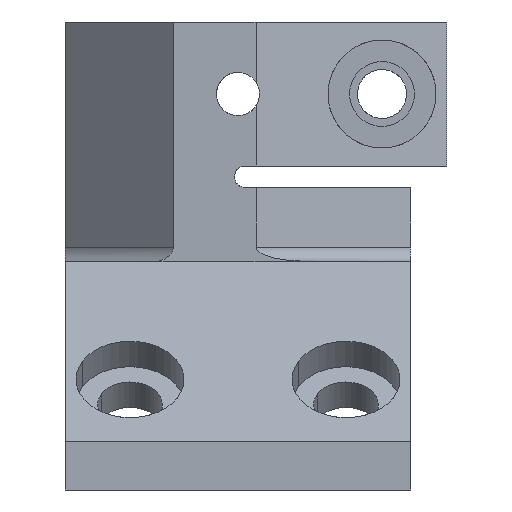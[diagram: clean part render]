
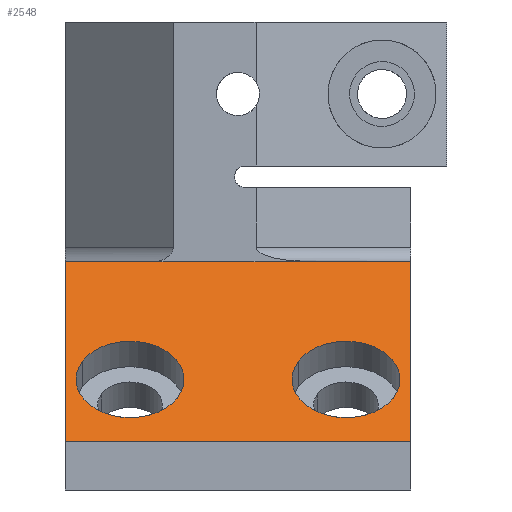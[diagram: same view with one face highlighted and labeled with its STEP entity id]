
A CAD part, front view. The second image highlights one B-rep face of the part: STEP entity #2548.
In plain terms, the highlighted planar face has unit normal (0, -0.707, 0.707).
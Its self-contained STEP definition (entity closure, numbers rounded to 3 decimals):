
#482=CARTESIAN_POINT('Vertex',(-9.,-44.,26.711)) ;
#485=CARTESIAN_POINT('Line Origine',(-9.,-31.5,39.211)) ;
#489=CARTESIAN_POINT('Vertex',(-9.,-19.,51.711)) ;
#830=CARTESIAN_POINT('Vertex',(3.172,-19.,51.711)) ;
#1004=CARTESIAN_POINT('Line Origine',(4.586,-19.,51.711)) ;
#1008=CARTESIAN_POINT('Vertex',(6.,-19.,51.711)) ;
#1011=CARTESIAN_POINT('Line Origine',(11.751,-19.,51.711)) ;
#1015=CARTESIAN_POINT('Vertex',(17.501,-19.,51.711)) ;
#1018=CARTESIAN_POINT('Line Origine',(21.365,-19.,51.711)) ;
#1022=CARTESIAN_POINT('Vertex',(25.229,-19.,51.711)) ;
#1808=CARTESIAN_POINT('Axis2P3D Location',(0.,-35.355,35.355)) ;
#1812=CARTESIAN_POINT('Vertex',(6.582,-37.898,32.813)) ;
#1814=CARTESIAN_POINT('Vertex',(-6.582,-32.813,37.898)) ;
#1834=CARTESIAN_POINT('Axis2P3D Location',(0.,-35.355,35.355)) ;
#1851=CARTESIAN_POINT('Axis2P3D Location',(30.,-35.355,35.355)) ;
#1855=CARTESIAN_POINT('Vertex',(23.418,-32.813,37.898)) ;
#1857=CARTESIAN_POINT('Vertex',(36.582,-37.898,32.813)) ;
#1877=CARTESIAN_POINT('Axis2P3D Location',(30.,-35.355,35.355)) ;
#2101=CARTESIAN_POINT('Line Origine',(32.114,-19.,51.711)) ;
#2105=CARTESIAN_POINT('Vertex',(39.,-19.,51.711)) ;
#2253=CARTESIAN_POINT('Line Origine',(39.,-31.5,39.211)) ;
#2257=CARTESIAN_POINT('Vertex',(39.,-44.,26.711)) ;
#2508=CARTESIAN_POINT('Line Origine',(15.,-44.,26.711)) ;
#2520=CARTESIAN_POINT('Axis2P3D Location',(0.,-19.,51.711)) ;
#2525=CARTESIAN_POINT('Line Origine',(-2.914,-19.,51.711)) ;
#486=DIRECTION('Vector Direction',(0.,-0.707,-0.707)) ;
#1005=DIRECTION('Vector Direction',(1.,0.,0.)) ;
#1012=DIRECTION('Vector Direction',(1.,0.,0.)) ;
#1019=DIRECTION('Vector Direction',(-1.,0.,0.)) ;
#1809=DIRECTION('Axis2P3D Direction',(0.,0.707,-0.707)) ;
#1835=DIRECTION('Axis2P3D Direction',(0.,0.707,-0.707)) ;
#1852=DIRECTION('Axis2P3D Direction',(0.,0.707,-0.707)) ;
#1878=DIRECTION('Axis2P3D Direction',(0.,0.707,-0.707)) ;
#2102=DIRECTION('Vector Direction',(-1.,0.,0.)) ;
#2254=DIRECTION('Vector Direction',(0.,-0.707,-0.707)) ;
#2509=DIRECTION('Vector Direction',(1.,0.,0.)) ;
#2521=DIRECTION('Axis2P3D Direction',(0.,-0.707,0.707)) ;
#2522=DIRECTION('Axis2P3D XDirection',(0.,-0.707,-0.707)) ;
#2526=DIRECTION('Vector Direction',(1.,0.,0.)) ;
#1810=AXIS2_PLACEMENT_3D('Circle Axis2P3D',#1808,#1809,$) ;
#1836=AXIS2_PLACEMENT_3D('Circle Axis2P3D',#1834,#1835,$) ;
#1853=AXIS2_PLACEMENT_3D('Circle Axis2P3D',#1851,#1852,$) ;
#1879=AXIS2_PLACEMENT_3D('Circle Axis2P3D',#1877,#1878,$) ;
#2523=AXIS2_PLACEMENT_3D('Plane Axis2P3D',#2520,#2521,#2522) ;
#2531=ORIENTED_EDGE('',*,*,#2107,.F.) ;
#2532=ORIENTED_EDGE('',*,*,#1024,.F.) ;
#2533=ORIENTED_EDGE('',*,*,#1017,.F.) ;
#2534=ORIENTED_EDGE('',*,*,#1010,.T.) ;
#2535=ORIENTED_EDGE('',*,*,#2529,.F.) ;
#2536=ORIENTED_EDGE('',*,*,#491,.T.) ;
#2537=ORIENTED_EDGE('',*,*,#2512,.T.) ;
#2538=ORIENTED_EDGE('',*,*,#2259,.F.) ;
#2541=ORIENTED_EDGE('',*,*,#1881,.F.) ;
#2542=ORIENTED_EDGE('',*,*,#1859,.F.) ;
#2545=ORIENTED_EDGE('',*,*,#1838,.F.) ;
#2546=ORIENTED_EDGE('',*,*,#1816,.F.) ;
#2543=FACE_BOUND('',#2540,.T.) ;
#2547=FACE_BOUND('',#2544,.T.) ;
#487=VECTOR('Line Direction',#486,1.) ;
#1006=VECTOR('Line Direction',#1005,1.) ;
#1013=VECTOR('Line Direction',#1012,1.) ;
#1020=VECTOR('Line Direction',#1019,1.) ;
#2103=VECTOR('Line Direction',#2102,1.) ;
#2255=VECTOR('Line Direction',#2254,1.) ;
#2510=VECTOR('Line Direction',#2509,1.) ;
#2527=VECTOR('Line Direction',#2526,1.) ;
#2548=ADVANCED_FACE('\X2\96F64EF651E04F554F53\X0\',(#2539,#2543,#2547),#2524,.T.) ;
#1811=CIRCLE('generated circle',#1810,7.5) ;
#1837=CIRCLE('generated circle',#1836,7.5) ;
#1854=CIRCLE('generated circle',#1853,7.5) ;
#1880=CIRCLE('generated circle',#1879,7.5) ;
#491=EDGE_CURVE('',#490,#483,#488,.T.) ;
#1010=EDGE_CURVE('',#1009,#831,#1007,.F.) ;
#1017=EDGE_CURVE('',#1009,#1016,#1014,.T.) ;
#1024=EDGE_CURVE('',#1016,#1023,#1021,.F.) ;
#1816=EDGE_CURVE('',#1813,#1815,#1811,.F.) ;
#1838=EDGE_CURVE('',#1815,#1813,#1837,.F.) ;
#1859=EDGE_CURVE('',#1856,#1858,#1854,.F.) ;
#1881=EDGE_CURVE('',#1858,#1856,#1880,.F.) ;
#2107=EDGE_CURVE('',#1023,#2106,#2104,.F.) ;
#2259=EDGE_CURVE('',#2106,#2258,#2256,.T.) ;
#2512=EDGE_CURVE('',#483,#2258,#2511,.T.) ;
#2529=EDGE_CURVE('',#490,#831,#2528,.T.) ;
#2530=EDGE_LOOP('',(#2531,#2532,#2533,#2534,#2535,#2536,#2537,#2538)) ;
#2540=EDGE_LOOP('',(#2541,#2542)) ;
#2544=EDGE_LOOP('',(#2545,#2546)) ;
#2539=FACE_OUTER_BOUND('',#2530,.T.) ;
#488=LINE('Line',#485,#487) ;
#1007=LINE('Line',#1004,#1006) ;
#1014=LINE('Line',#1011,#1013) ;
#1021=LINE('Line',#1018,#1020) ;
#2104=LINE('Line',#2101,#2103) ;
#2256=LINE('Line',#2253,#2255) ;
#2511=LINE('Line',#2508,#2510) ;
#2528=LINE('Line',#2525,#2527) ;
#2524=PLANE('',#2523) ;
#483=VERTEX_POINT('',#482) ;
#490=VERTEX_POINT('',#489) ;
#831=VERTEX_POINT('',#830) ;
#1009=VERTEX_POINT('',#1008) ;
#1016=VERTEX_POINT('',#1015) ;
#1023=VERTEX_POINT('',#1022) ;
#1813=VERTEX_POINT('',#1812) ;
#1815=VERTEX_POINT('',#1814) ;
#1856=VERTEX_POINT('',#1855) ;
#1858=VERTEX_POINT('',#1857) ;
#2106=VERTEX_POINT('',#2105) ;
#2258=VERTEX_POINT('',#2257) ;
